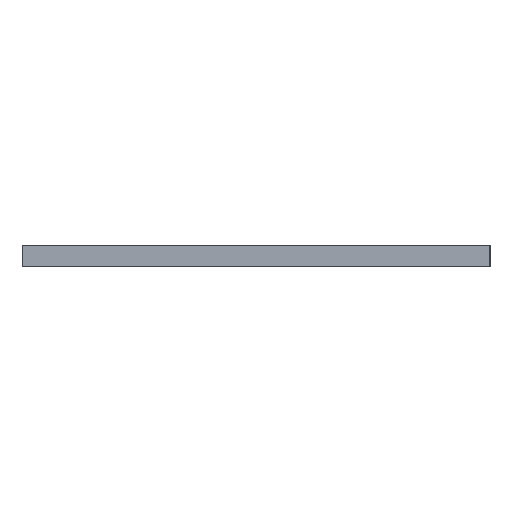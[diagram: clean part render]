
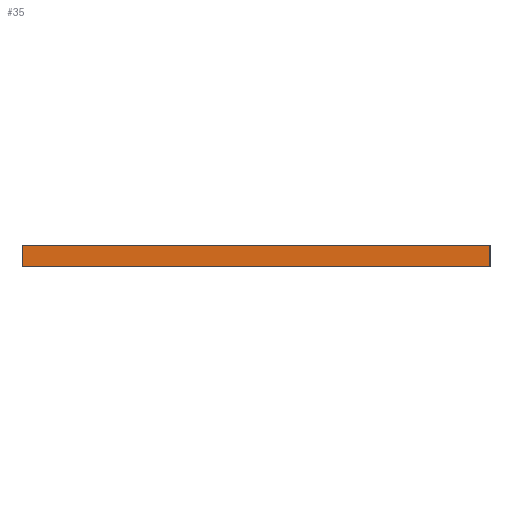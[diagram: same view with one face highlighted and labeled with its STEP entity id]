
A CAD part, left-side view. The second image highlights one B-rep face of the part: STEP entity #35.
In plain terms, the highlighted planar face has unit normal (-1, 0, 0).
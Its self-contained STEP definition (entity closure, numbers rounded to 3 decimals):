
#35=ADVANCED_FACE('',(#47),#351,.T.);
#47=FACE_OUTER_BOUND('',#59,.T.);
#59=EDGE_LOOP('',(#71,#72,#73,#74));
#71=ORIENTED_EDGE('',*,*,#239,.T.);
#72=ORIENTED_EDGE('',*,*,#240,.T.);
#73=ORIENTED_EDGE('',*,*,#241,.T.);
#74=ORIENTED_EDGE('',*,*,#242,.T.);
#119=PCURVE('',#351,#167);
#120=PCURVE('',#351,#168);
#121=PCURVE('',#351,#169);
#122=PCURVE('',#351,#170);
#126=PCURVE('',#352,#174);
#132=PCURVE('',#354,#180);
#138=PCURVE('',#355,#186);
#139=PCURVE('',#356,#187);
#167=DEFINITIONAL_REPRESENTATION('',(#264),#586);
#168=DEFINITIONAL_REPRESENTATION('',(#266),#586);
#169=DEFINITIONAL_REPRESENTATION('',(#268),#586);
#170=DEFINITIONAL_REPRESENTATION('',(#270),#586);
#174=DEFINITIONAL_REPRESENTATION('',(#277),#586);
#180=DEFINITIONAL_REPRESENTATION('',(#287),#586);
#186=DEFINITIONAL_REPRESENTATION('',(#294),#586);
#187=DEFINITIONAL_REPRESENTATION('',(#295),#586);
#215=SURFACE_CURVE('',#263,(#119,#138),.PCURVE_S1.);
#216=SURFACE_CURVE('',#265,(#120,#126),.PCURVE_S1.);
#217=SURFACE_CURVE('',#267,(#121,#139),.PCURVE_S1.);
#218=SURFACE_CURVE('',#269,(#122,#132),.PCURVE_S1.);
#239=EDGE_CURVE('',#335,#336,#215,.T.);
#240=EDGE_CURVE('',#336,#337,#216,.T.);
#241=EDGE_CURVE('',#337,#338,#217,.T.);
#242=EDGE_CURVE('',#338,#335,#218,.T.);
#263=B_SPLINE_CURVE_WITH_KNOTS('',1,(#427,#428),.UNSPECIFIED.,.F.,.F.,(2,
2),(-200.,-150.),.UNSPECIFIED.);
#264=B_SPLINE_CURVE_WITH_KNOTS('',1,(#429,#430),.UNSPECIFIED.,.F.,.F.,(2,
2),(-200.,-150.),.UNSPECIFIED.);
#265=B_SPLINE_CURVE_WITH_KNOTS('',1,(#431,#432),.UNSPECIFIED.,.F.,.F.,(2,
2),(0.,400.),.UNSPECIFIED.);
#266=B_SPLINE_CURVE_WITH_KNOTS('',1,(#433,#434),.UNSPECIFIED.,.F.,.F.,(2,
2),(0.,400.),.UNSPECIFIED.);
#267=B_SPLINE_CURVE_WITH_KNOTS('',1,(#435,#436),.UNSPECIFIED.,.F.,.F.,(2,
2),(150.,200.),.UNSPECIFIED.);
#268=B_SPLINE_CURVE_WITH_KNOTS('',1,(#437,#438),.UNSPECIFIED.,.F.,.F.,(2,
2),(150.,200.),.UNSPECIFIED.);
#269=B_SPLINE_CURVE_WITH_KNOTS('',1,(#439,#440),.UNSPECIFIED.,.F.,.F.,(2,
2),(-400.,0.),.UNSPECIFIED.);
#270=B_SPLINE_CURVE_WITH_KNOTS('',1,(#441,#442),.UNSPECIFIED.,.F.,.F.,(2,
2),(-400.,0.),.UNSPECIFIED.);
#277=B_SPLINE_CURVE_WITH_KNOTS('',1,(#455,#456),.UNSPECIFIED.,.F.,.F.,(2,
2),(0.,400.),.UNSPECIFIED.);
#287=B_SPLINE_CURVE_WITH_KNOTS('',1,(#475,#476),.UNSPECIFIED.,.F.,.F.,(2,
2),(-400.,0.),.UNSPECIFIED.);
#294=B_SPLINE_CURVE_WITH_KNOTS('',1,(#489,#490),.UNSPECIFIED.,.F.,.F.,(2,
2),(-200.,-150.),.UNSPECIFIED.);
#295=B_SPLINE_CURVE_WITH_KNOTS('',1,(#491,#492),.UNSPECIFIED.,.F.,.F.,(2,
2),(150.,200.),.UNSPECIFIED.);
#335=VERTEX_POINT('',#419);
#336=VERTEX_POINT('',#420);
#337=VERTEX_POINT('',#421);
#338=VERTEX_POINT('',#422);
#351=PLANE('',#383);
#352=PLANE('',#384);
#354=PLANE('',#386);
#355=PLANE('',#387);
#356=PLANE('',#388);
#383=AXIS2_PLACEMENT_3D('',#413,#398,$);
#384=AXIS2_PLACEMENT_3D('',#414,#399,$);
#386=AXIS2_PLACEMENT_3D('',#416,#401,$);
#387=AXIS2_PLACEMENT_3D('',#417,#402,$);
#388=AXIS2_PLACEMENT_3D('',#418,#403,$);
#398=DIRECTION('',(-1.,0.,0.));
#399=DIRECTION('',(0.,0.,1.));
#401=DIRECTION('',(0.,0.,-1.));
#402=DIRECTION('',(0.,-1.,0.));
#403=DIRECTION('',(0.,1.,0.));
#413=CARTESIAN_POINT('',(-810.,-545.,0.));
#414=CARTESIAN_POINT('',(-810.,-545.,40.));
#416=CARTESIAN_POINT('',(-770.,-545.,0.));
#417=CARTESIAN_POINT('',(-770.,-545.,0.));
#418=CARTESIAN_POINT('',(-770.,315.,0.));
#419=CARTESIAN_POINT('',(-810.,-545.,0.));
#420=CARTESIAN_POINT('',(-810.,-545.,40.));
#421=CARTESIAN_POINT('',(-810.,315.,40.));
#422=CARTESIAN_POINT('',(-810.,315.,0.));
#427=CARTESIAN_POINT('',(-810.,-545.,0.));
#428=CARTESIAN_POINT('',(-810.,-545.,40.));
#429=CARTESIAN_POINT('',(-200.,0.));
#430=CARTESIAN_POINT('',(-150.,0.));
#431=CARTESIAN_POINT('',(-810.,-545.,40.));
#432=CARTESIAN_POINT('',(-810.,315.,40.));
#433=CARTESIAN_POINT('',(-150.,0.));
#434=CARTESIAN_POINT('',(-150.,400.));
#435=CARTESIAN_POINT('',(-810.,315.,40.));
#436=CARTESIAN_POINT('',(-810.,315.,0.));
#437=CARTESIAN_POINT('',(-150.,400.));
#438=CARTESIAN_POINT('',(-200.,400.));
#439=CARTESIAN_POINT('',(-810.,315.,0.));
#440=CARTESIAN_POINT('',(-810.,-545.,0.));
#441=CARTESIAN_POINT('',(-200.,400.));
#442=CARTESIAN_POINT('',(-200.,0.));
#455=CARTESIAN_POINT('',(-150.,0.));
#456=CARTESIAN_POINT('',(-150.,400.));
#475=CARTESIAN_POINT('',(0.,400.));
#476=CARTESIAN_POINT('',(0.,0.));
#489=CARTESIAN_POINT('',(0.,0.));
#490=CARTESIAN_POINT('',(40.,0.));
#491=CARTESIAN_POINT('',(0.,40.));
#492=CARTESIAN_POINT('',(0.,0.));
#586=(
GEOMETRIC_REPRESENTATION_CONTEXT(2)
PARAMETRIC_REPRESENTATION_CONTEXT()
REPRESENTATION_CONTEXT('pspace','')
);
